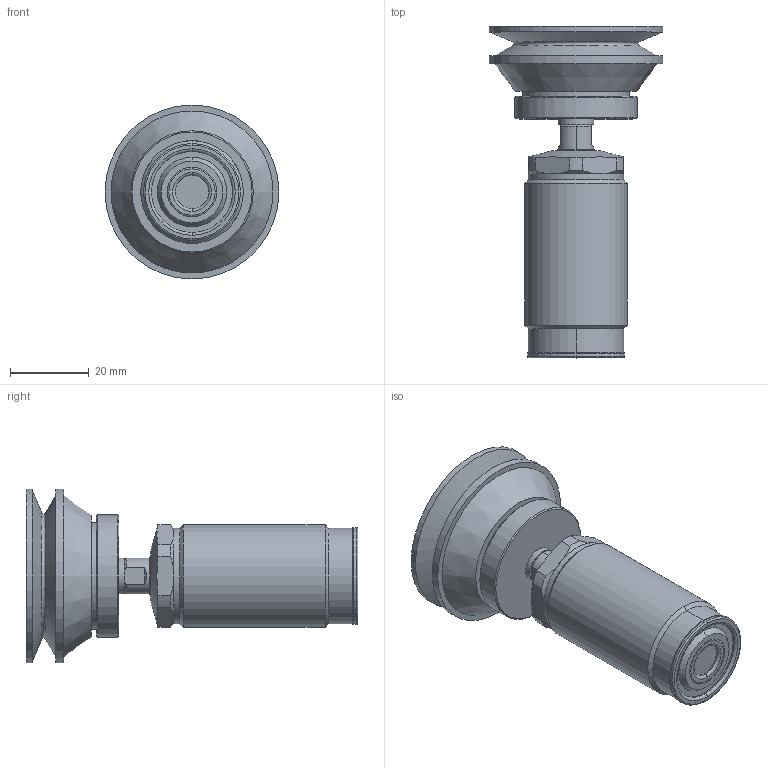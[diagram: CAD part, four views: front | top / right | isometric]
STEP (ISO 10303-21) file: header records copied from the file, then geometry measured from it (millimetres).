
FILE_DESCRIPTION(/* description */ (''),/* implementation_level */ '2;1');
FILE_NAME(/* name */ 'TNL26-D吸附型.stp',/* time_stamp */ '2025-01-09T11:15:54+08:00',/* author */ (''),/* organization */ (''),/* preprocessor_version */ 'ST-DEVELOPER v16.7',/* originating_system */ 'SIEMENS PLM Software NX 12.0',/* authorisation */ '');
FILE_SCHEMA (('AUTOMOTIVE_DESIGN { 1 0 10303 214 3 1 1 1 }'));
Length unit declared in the file: millimetre
Products named in the file (10): TNL26-01957; TNL26-09; TNL26-08; TNL26-07; TNL26-06; TNL26-021066; TNL26-031068; TNL26-041069; TNL26-051070; TNL26-D吸附型_stp
Assembly tree (9 placements, depth 2):
  TNL26-D吸附型_stp
    TNL26-051070
    TNL26-041069
    TNL26-031068
    TNL26-021066
    TNL26-06
    TNL26-07
    TNL26-08
    TNL26-09
    TNL26-01957
Bounding box: 44 x 84 x 44 mm (x, y, z)
Volume: 41537 mm3; surface area: 19029.3 mm2
Topology: 9 solids, 9 shells, 178 faces, 381 edges, 232 vertices
Faces by surface type: plane 58, cylinder 48, torus 39, cone 30, sphere 3
Full cylindrical faces by diameter (mm): 6 x1, 9 x1, 15.7 x1, 16 x1, 23 x1, 24.2 x1, 26 x1, 27 x1, 27.5 x1, 31 x1, 44 x2
Entity records: 5119 total; most frequent: CARTESIAN_POINT 1026, DIRECTION 914, ORIENTED_EDGE 694, AXIS2_PLACEMENT_3D 411, EDGE_CURVE 347, EDGE_LOOP 228, VERTEX_POINT 227, CIRCLE 223
